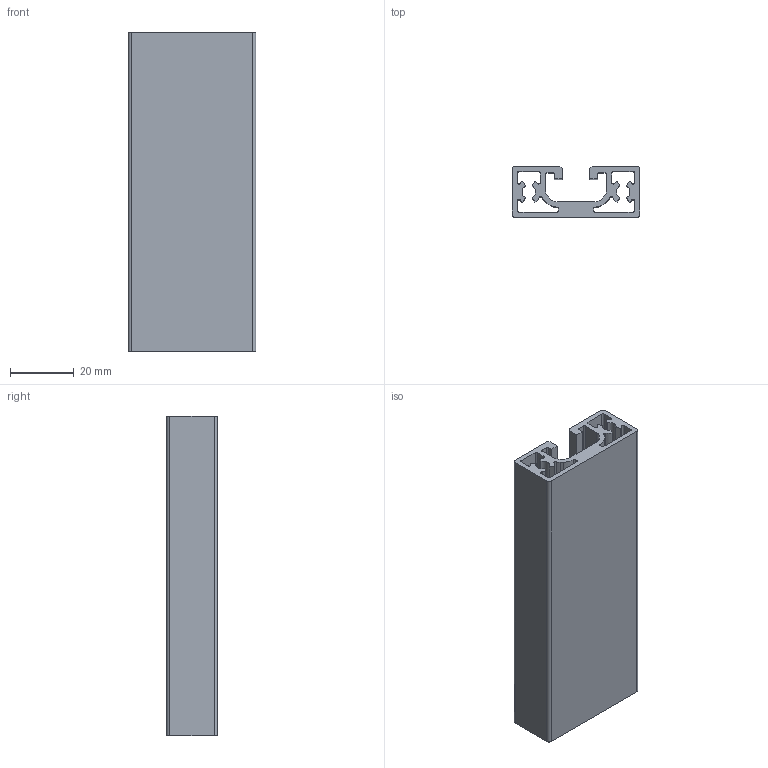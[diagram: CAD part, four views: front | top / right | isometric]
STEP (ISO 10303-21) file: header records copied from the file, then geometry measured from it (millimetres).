
FILE_DESCRIPTION((''),'2;1');
FILE_NAME('C:\Users\de2afr0\Desktop\New folder\MS40+ B 40x16.stp','2014-02-28T13:21:25',('de2afr0'),(''),'Autodesk Inventor 2011','Autodesk Inventor 2011','');
FILE_SCHEMA(('AUTOMOTIVE_DESIGN { 1 0 10303 214 1 1 1 1 }'));
Length unit declared in the file: millimetre
Products named in the file (1): MB01161501
Bounding box: 40 x 16 x 100 mm (x, y, z)
Volume: 29028.2 mm3; surface area: 28793.7 mm2
Topology: 1 solids, 1 shells, 90 faces, 264 edges, 176 vertices
Faces by surface type: cylinder 46, plane 44
Entity records: 3054 total; most frequent: DIRECTION 538, CARTESIAN_POINT 531, ORIENTED_EDGE 528, EDGE_CURVE 264, AXIS2_PLACEMENT_3D 183, VERTEX_POINT 176, VECTOR 172, LINE 172
